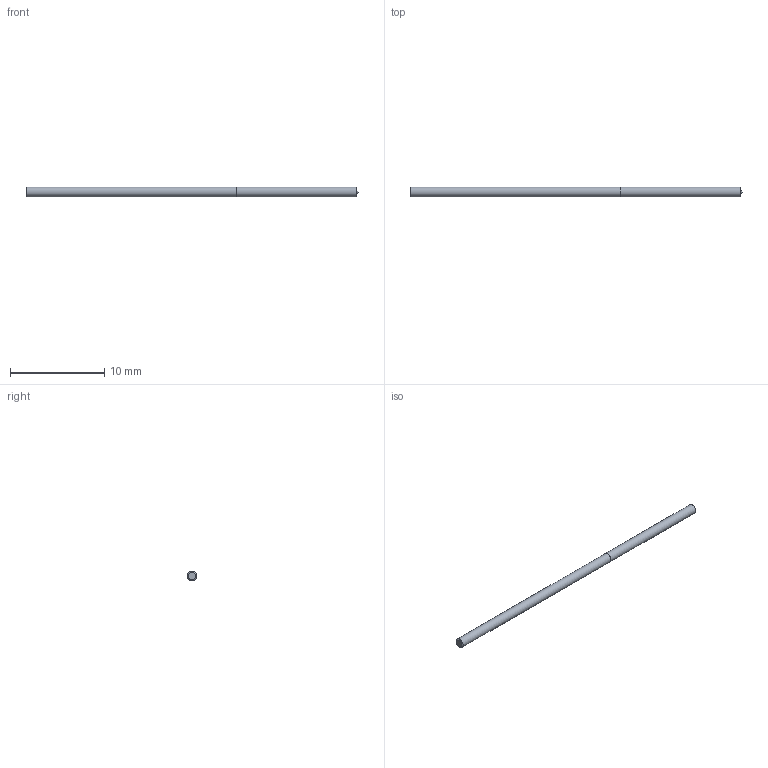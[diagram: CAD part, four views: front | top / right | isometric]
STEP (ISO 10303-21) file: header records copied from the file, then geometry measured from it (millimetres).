
FILE_DESCRIPTION (( 'STEP AP214' ), '1' );
FILE_NAME ('03-2402.STEP', '2022-06-03T07:17:30', ( 'USER' ), ( '' ), 'SwSTEP 2.0', 'SolidWorks 2018', '' );
FILE_SCHEMA (( 'AUTOMOTIVE_DESIGN' ));
Length unit declared in the file: inch
Products named in the file (1): 03-2402
Bounding box: 35.14 x 1.02 x 1.02 mm (x, y, z)
Volume: 28.4 mm3; surface area: 114.6 mm2
Topology: 2 solids, 2 shells, 7 faces, 11 edges, 7 vertices
Faces by surface type: plane 3, cylinder 2, cone 2
Full cylindrical faces by diameter (mm): 1.016 x2
Entity records: 214 total; most frequent: DIRECTION 26, CARTESIAN_POINT 18, AXIS2_PLACEMENT_3D 13, EDGE_LOOP 10, ORIENTED_EDGE 10, FACE_OUTER_BOUND 9, ADVANCED_FACE 7, DIMENSIONAL_EXPONENTS 7
